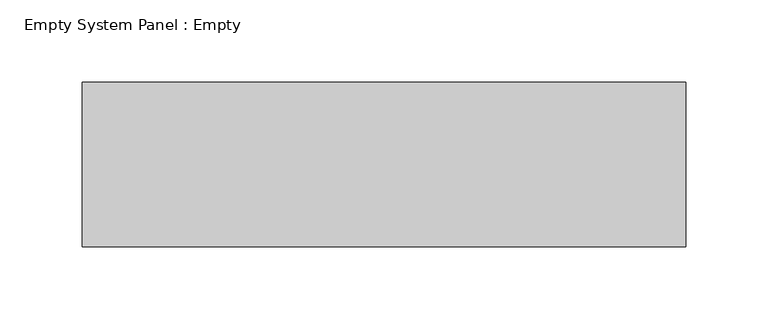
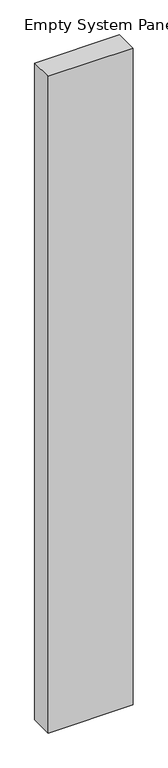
"""IFC4 building model written with IfcOpenShell, lengths in millimetres: plate geometry, Empty System Panel : Empty."""

from ifc_helpers import new_model, si_unit, origin, origin_with_axes, place, context, project, spatial, polyline, outline, extrude, source, transform, mapped, element, save


def empty_system_panel_empty_f5e541b1(model_context):
    return source(origin(), model_context, "Body", "SweptSolid", [
        extrude(outline(polyline([(183.609127, -50.0), (-183.609127, -50.0), (-183.609127, 50.0), (183.609127, 50.0), (183.609127, -50.0)])), origin_with_axes(), (0.0, 0.0, 1.0), 3000.0),
    ])


if __name__ == "__main__":
    model = new_model("IFC4")
    model_context = context("Model", 3, world=origin())
    ifc_project = project(units=[si_unit("LENGTHUNIT", "METRE", prefix="MILLI")], contexts=[model_context])
    site = spatial("IfcSite", under=ifc_project)
    building = spatial("IfcBuilding", under=site)
    placement = place(None, origin())
    empty_system_panel_empty_shape = empty_system_panel_empty_f5e541b1(model_context)
    element("IfcPlate", 1, ObjectType="Empty System Panel : Empty", at=placement, inside=building, context=model_context, shape_type="MappedRepresentation", body=[
        mapped(empty_system_panel_empty_shape, transform((0.0, 0.0, 0.0), x_axis=(1.0, 0.0, 0.0), y_axis=(0.0, 1.0, 0.0), z_axis=(0.0, 0.0, 1.0))),
    ])
    save(model, "model.ifc")
